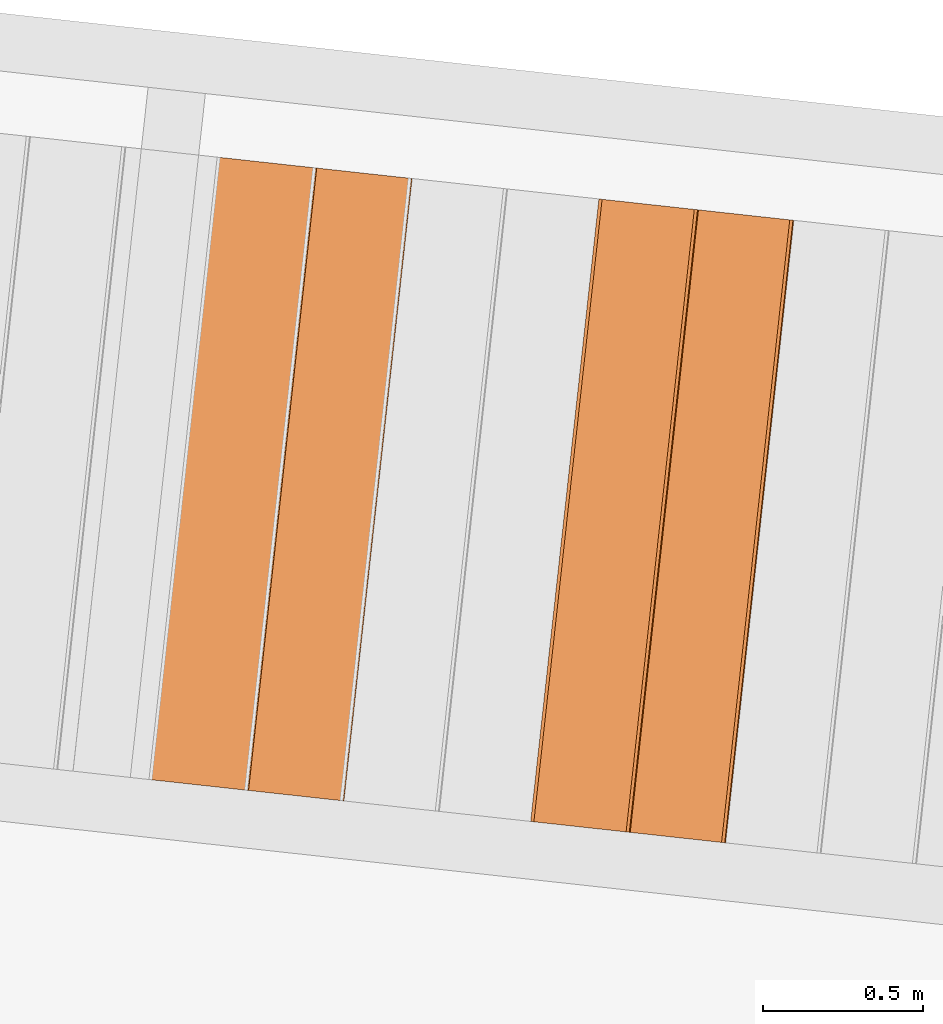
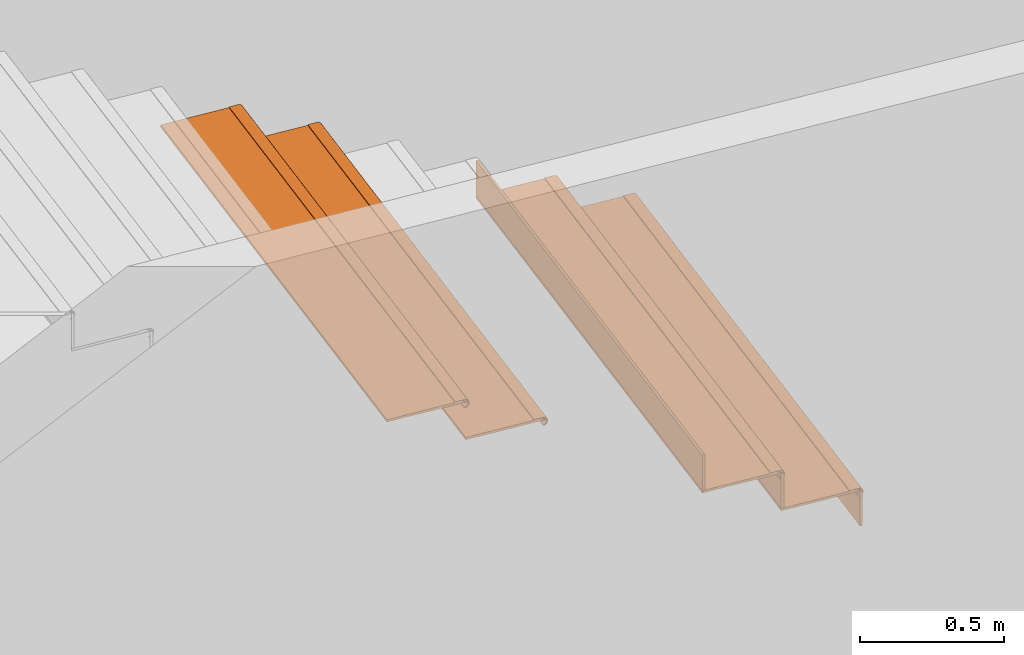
# One storey, part 76 of 79: 7 proxies, 1 element without a shape of its own.
"""IFC2X3 building model written with IfcOpenShell, lengths in metres."""

from ifc_helpers import new_model, entity, si_unit, converted_unit, derived_unit, money_unit, direction, frame, origin_with_axes, place, context, subcontext, project, spatial, faceted_brep, material, type_object, element, aggregate, save


model = new_model("IFC2X3")

# Units and contexts
model_context = context("Model", 3, precision=1e-05, world=origin_with_axes(), true_north=direction((0.0, 1.0)))
body_context = subcontext(model_context, "Body", "Model", "MODEL_VIEW")
ifc_project = project(units=[si_unit("LENGTHUNIT", "METRE"), si_unit("AREAUNIT", "SQUARE_METRE"), si_unit("VOLUMEUNIT", "CUBIC_METRE"), converted_unit("PLANEANGLEUNIT", "DEGREE", entity("IfcPlaneAngleMeasure", 0.0174532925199), si_unit("PLANEANGLEUNIT", "RADIAN"), dimensions=[0, 0, 0, 0, 0, 0, 0]), money_unit("CHF"), converted_unit("TIMEUNIT", "Year", entity("IfcTimeMeasure", 31556926.0), si_unit("TIMEUNIT", "SECOND"), dimensions=[0, 0, 1, 0, 0, 0, 0]), si_unit("MASSUNIT", "GRAM", prefix="KILO"), si_unit("THERMODYNAMICTEMPERATUREUNIT", "DEGREE_CELSIUS"), si_unit("LUMINOUSINTENSITYUNIT", "LUMEN"), si_unit("ENERGYUNIT", "JOULE", prefix="MEGA"), derived_unit("THERMALCONDUCTANCEUNIT", [(si_unit("POWERUNIT", "WATT"), 1), (si_unit("LENGTHUNIT", "METRE"), -1), (si_unit("THERMODYNAMICTEMPERATUREUNIT", "KELVIN"), -1)]), derived_unit("SPECIFICHEATCAPACITYUNIT", [(si_unit("ENERGYUNIT", "JOULE"), 1), (si_unit("MASSUNIT", "GRAM", prefix="KILO"), -1), (si_unit("THERMODYNAMICTEMPERATUREUNIT", "KELVIN"), -1)]), derived_unit("MASSDENSITYUNIT", [(si_unit("MASSUNIT", "GRAM", prefix="KILO"), 1), (si_unit("VOLUMEUNIT", "CUBIC_METRE"), -1)])], contexts=[model_context])

# Site, building, storey
site_placement = place(None, frame((0.0, 0.0, 0.0), z_axis=(0.0, 0.0, 1.0), x_axis=(-0.177771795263, -0.984071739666, 0.0)))
site = spatial("IfcSite", under=ifc_project, at=site_placement, Name="Site", CompositionType="ELEMENT")
building_placement = place(site_placement, origin_with_axes())
building = spatial("IfcBuilding", under=site, at=building_placement, Name="Bâtiment", CompositionType="ELEMENT")
storey_placement = place(building_placement, origin_with_axes())
storey = spatial("IfcBuildingStorey", under=building, at=storey_placement, Name="RDC", CompositionType="ELEMENT", Elevation=0.0)

# Proxies
building_element_proxy_type_1 = type_object("IfcBuildingElementProxyType", Name="Type d'escalier", PredefinedType="NOTDEFINED")
proxy_1_placement = place(storey_placement, origin_with_axes())
proxy_1 = element("IfcBuildingElementProxy", 1, at=proxy_1_placement, inside=storey, type_object=building_element_proxy_type_1, Name="ESC-001")
ifc_material = material(Name="Bois - Massif 01")
building_element_proxy_type_2 = type_object("IfcBuildingElementProxyType", Name="IfcBuildingElementProxy", PredefinedType="NOTDEFINED")
proxy_2_placement = place(proxy_1_placement, frame((98.7864712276, -152.794755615, 1.11), z_axis=(0.0, 0.0, 1.0), x_axis=(0.997579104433, 0.0695408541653, 0.0)))
proxy_2 = element("IfcBuildingElementProxy", 2, at=proxy_2_placement, type_object=building_element_proxy_type_2, material=ifc_material, Name="C-MARCHE-007", context=body_context, shape_type="Brep", body=[
    faceted_brep([(1.0011653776, 0.0, 0.0), (-0.955838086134, 0.0, 0.0), (-0.955838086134, -0.00999999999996, 0.0), (1.00116260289, -0.00999999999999, 0.0), (1.0011653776, 0.0, -0.15), (-0.955838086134, 0.0, -0.15), (-0.955838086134, -0.00999999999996, -0.15), (1.00116260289, -0.00999999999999, -0.15)], [[[0, 1, 2, 3]], [[4, 5, 1, 0]], [[1, 5, 6, 2]], [[3, 2, 6, 7]], [[0, 3, 7, 4]], [[7, 6, 5, 4]]]),
])
proxy_3_placement = place(proxy_1_placement, frame((98.8073334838, -153.094029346, 1.27), z_axis=(0.0, 0.0, 1.0), x_axis=(0.997579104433, 0.0695408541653, 0.0)))
proxy_3 = element("IfcBuildingElementProxy", 3, at=proxy_3_placement, type_object=building_element_proxy_type_2, material=ifc_material, Name="C-MARCHE-008", context=body_context, shape_type="Brep", body=[
    faceted_brep([(1.00108213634, 0.0, 0.0), (-0.955838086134, 0.0, 0.0), (-0.955838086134, -0.01, 0.0), (1.00107936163, -0.01, 0.0), (1.00108213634, 0.0, -0.15), (-0.955838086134, 0.0, -0.15), (-0.955838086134, -0.01, -0.15), (1.00107936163, -0.01, -0.15)], [[[0, 1, 2, 3]], [[4, 5, 1, 0]], [[1, 5, 6, 2]], [[3, 2, 6, 7]], [[0, 3, 7, 4]], [[7, 6, 5, 4]]]),
])
proxy_4_placement = place(proxy_1_placement, frame((98.8281957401, -153.393303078, 1.43), z_axis=(0.0, 0.0, 1.0), x_axis=(0.997579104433, 0.0695408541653, 0.0)))
proxy_4 = element("IfcBuildingElementProxy", 4, at=proxy_4_placement, type_object=building_element_proxy_type_2, material=ifc_material, Name="C-MARCHE-009", context=body_context, shape_type="Brep", body=[
    faceted_brep([(1.00099889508, 0.0, 0.0), (-0.955838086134, 0.0, 0.0), (-0.955838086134, -0.00999999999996, 0.0), (1.00099612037, -0.00999999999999, 0.0), (1.00099889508, 0.0, -0.15), (-0.955838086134, 0.0, -0.15), (-0.955838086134, -0.00999999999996, -0.15), (1.00099612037, -0.00999999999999, -0.15)], [[[0, 1, 2, 3]], [[4, 5, 1, 0]], [[1, 5, 6, 2]], [[3, 2, 6, 7]], [[0, 3, 7, 4]], [[7, 6, 5, 4]]]),
])
proxy_5_placement = place(proxy_1_placement, frame((98.7864712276, -152.794755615, 1.12), z_axis=(0.0, 0.0, 1.0), x_axis=(0.997579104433, 0.0695408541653, 0.0)))
proxy_5 = element("IfcBuildingElementProxy", 5, at=proxy_5_placement, type_object=building_element_proxy_type_2, material=ifc_material, Name="MARCHE-007", context=body_context, shape_type="Brep", body=[
    faceted_brep([(1.00116195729, -0.012326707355, -0.00589109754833), (1.00116121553, -0.015, -0.00401923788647), (1.00115990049, -0.0197393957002, -0.00180922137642), (1.00115849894, -0.02479055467, -0.00045576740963), (1.00115705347, -0.03, 0.0), (1.00107936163, -0.310000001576, 0.0), (1.00107936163, -0.310000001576, -0.01), (1.0011653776, 0.0, -0.01), (-0.955838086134, -0.012326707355, -0.00589109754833), (-0.955838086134, -0.015, -0.00401923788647), (-0.955838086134, -0.0197393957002, -0.00180922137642), (-0.955838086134, -0.02479055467, -0.00045576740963), (-0.955838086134, -0.03, 0.0), (-0.955838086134, -0.310000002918, 0.0), (-0.955838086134, -0.310000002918, -0.01), (-0.955838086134, 0.0, -0.01)], [[[0, 1, 2, 3, 4, 5, 6, 7]], [[0, 8, 9, 1]], [[1, 9, 10, 2]], [[2, 10, 11, 3]], [[3, 11, 12, 4]], [[5, 4, 12, 13]], [[13, 14, 6, 5]], [[7, 6, 14, 15]], [[7, 15, 8, 0]], [[12, 11, 10, 9, 8, 15, 14, 13]]]),
    faceted_brep([(-0.955838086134, -0.05, 0.0), (1.0011653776, -0.05, 0.0), (1.0011653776, -0.05, 0.003), (-0.955838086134, -0.05, 0.003), (-0.955838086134, -0.015, 0.0), (1.0011653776, -0.015, 0.0), (1.0011653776, -0.012395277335, -0.00022788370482), (1.0011653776, -0.00986969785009, -0.00090461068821), (1.0011653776, -0.00749999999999, -0.00200961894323), (1.0011653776, -0.00535818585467, -0.00350933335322), (1.0011653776, -0.00350933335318, -0.0053581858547), (1.0011653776, -0.00200961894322, -0.0075), (1.0011653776, -0.000904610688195, -0.00986969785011), (1.0011653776, -0.000227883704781, -0.012395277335), (1.0011653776, 0.0, -0.015), (1.0011653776, -0.000227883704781, -0.017604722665), (1.0011653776, -0.000904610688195, -0.0201303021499), (1.0011653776, -0.00200961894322, -0.0225), (1.0011653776, -0.00350933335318, -0.0246418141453), (1.0011653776, -0.00535818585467, -0.0264906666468), (1.0011653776, -0.00749999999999, -0.0279903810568), (1.0011653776, -0.00986969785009, -0.0290953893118), (1.0011653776, -0.012395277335, -0.0297721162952), (1.0011653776, -0.015, -0.03), (1.0011653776, -0.015, -0.033), (1.0011653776, -0.011874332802, -0.0327265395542), (1.0011653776, -0.00884363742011, -0.0319144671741), (1.0011653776, -0.00599999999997, -0.0305884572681), (1.0011653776, -0.00342982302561, -0.0287887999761), (1.0011653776, -0.00121120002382, -0.0265701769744), (1.0011653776, 0.000588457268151, -0.024), (1.0011653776, 0.00191446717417, -0.0211563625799), (1.0011653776, 0.00272653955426, -0.018125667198), (1.0011653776, 0.00300000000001, -0.015), (1.0011653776, 0.00272653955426, -0.011874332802), (1.0011653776, 0.00191446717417, -0.00884363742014), (1.0011653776, 0.000588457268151, -0.006), (1.0011653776, -0.00121120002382, -0.00342982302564), (1.0011653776, -0.00342982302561, -0.00121120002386), (1.0011653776, -0.00599999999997, 0.00058845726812), (1.0011653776, -0.00884363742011, 0.00191446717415), (1.0011653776, -0.011874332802, 0.00272653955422), (1.0011653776, -0.015, 0.003), (-0.955838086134, -0.015, 0.003), (-0.955838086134, -0.011874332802, 0.00272653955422), (-0.955838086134, -0.00884363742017, 0.00191446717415), (-0.955838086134, -0.006, 0.00058845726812), (-0.955838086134, -0.00342982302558, -0.00121120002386), (-0.955838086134, -0.00121120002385, -0.00342982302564), (-0.955838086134, 0.000588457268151, -0.006), (-0.955838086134, 0.00191446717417, -0.00884363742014), (-0.955838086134, 0.00272653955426, -0.011874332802), (-0.955838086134, 0.00300000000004, -0.015), (-0.955838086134, 0.00272653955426, -0.018125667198), (-0.955838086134, 0.00191446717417, -0.0211563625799), (-0.955838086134, 0.000588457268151, -0.024), (-0.955838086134, -0.00121120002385, -0.0265701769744), (-0.955838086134, -0.00342982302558, -0.0287887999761), (-0.955838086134, -0.006, -0.0305884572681), (-0.955838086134, -0.00884363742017, -0.0319144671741), (-0.955838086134, -0.011874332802, -0.0327265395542), (-0.955838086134, -0.015, -0.033), (-0.955838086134, -0.015, -0.03), (-0.955838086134, -0.012395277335, -0.0297721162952), (-0.955838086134, -0.00986969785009, -0.0290953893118), (-0.955838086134, -0.00749999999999, -0.0279903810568), (-0.955838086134, -0.00535818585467, -0.0264906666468), (-0.955838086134, -0.00350933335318, -0.0246418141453), (-0.955838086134, -0.00200961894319, -0.0225), (-0.955838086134, -0.000904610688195, -0.0201303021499), (-0.955838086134, -0.00022788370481, -0.017604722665), (-0.955838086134, 0.0, -0.015), (-0.955838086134, -0.00022788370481, -0.012395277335), (-0.955838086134, -0.000904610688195, -0.00986969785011), (-0.955838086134, -0.00200961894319, -0.0075), (-0.955838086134, -0.00350933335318, -0.0053581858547), (-0.955838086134, -0.00535818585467, -0.00350933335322), (-0.955838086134, -0.00749999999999, -0.00200961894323), (-0.955838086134, -0.00986969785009, -0.00090461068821), (-0.955838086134, -0.012395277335, -0.00022788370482)], [[[0, 1, 2, 3]], [[4, 5, 1, 0]], [[1, 5, 6, 7, 8, 9, 10, 11, 12, 13, 14, 15, 16, 17, 18, 19, 20, 21, 22, 23, 24, 25, 26, 27, 28, 29, 30, 31, 32, 33, 34, 35, 36, 37, 38, 39, 40, 41, 42, 2]], [[3, 2, 42, 43]], [[0, 3, 43, 44, 45, 46, 47, 48, 49, 50, 51, 52, 53, 54, 55, 56, 57, 58, 59, 60, 61, 62, 63, 64, 65, 66, 67, 68, 69, 70, 71, 72, 73, 74, 75, 76, 77, 78, 79, 4]], [[79, 6, 5, 4]], [[78, 7, 6, 79]], [[77, 8, 7, 78]], [[76, 9, 8, 77]], [[75, 10, 9, 76]], [[74, 11, 10, 75]], [[73, 12, 11, 74]], [[72, 13, 12, 73]], [[71, 14, 13, 72]], [[70, 15, 14, 71]], [[69, 16, 15, 70]], [[68, 17, 16, 69]], [[67, 18, 17, 68]], [[66, 19, 18, 67]], [[65, 20, 19, 66]], [[64, 21, 20, 65]], [[63, 22, 21, 64]], [[62, 23, 22, 63]], [[61, 24, 23, 62]], [[60, 25, 24, 61]], [[59, 26, 25, 60]], [[58, 27, 26, 59]], [[57, 28, 27, 58]], [[56, 29, 28, 57]], [[55, 30, 29, 56]], [[54, 31, 30, 55]], [[53, 32, 31, 54]], [[52, 33, 32, 53]], [[51, 34, 33, 52]], [[50, 35, 34, 51]], [[49, 36, 35, 50]], [[48, 37, 36, 49]], [[47, 38, 37, 48]], [[46, 39, 38, 47]], [[45, 40, 39, 46]], [[44, 41, 40, 45]], [[43, 42, 41, 44]]]),
])
proxy_6_placement = place(proxy_1_placement, frame((98.8073334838, -153.094029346, 1.28), z_axis=(0.0, 0.0, 1.0), x_axis=(0.997579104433, 0.0695408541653, 0.0)))
proxy_6 = element("IfcBuildingElementProxy", 6, at=proxy_6_placement, type_object=building_element_proxy_type_2, material=ifc_material, Name="MARCHE-008", context=body_context, shape_type="Brep", body=[
    faceted_brep([(1.00107871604, -0.012326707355, -0.00589109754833), (1.00107797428, -0.015, -0.00401923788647), (1.00107665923, -0.0197393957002, -0.00180922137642), (1.00107525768, -0.02479055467, -0.00045576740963), (1.00107381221, -0.03, 0.0), (1.00099612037, -0.309999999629, 0.0), (1.00099612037, -0.309999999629, -0.01), (1.00108213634, 0.0, -0.01), (-0.955838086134, -0.012326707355, -0.00589109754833), (-0.955838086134, -0.015, -0.00401923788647), (-0.955838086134, -0.0197393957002, -0.00180922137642), (-0.955838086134, -0.02479055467, -0.00045576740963), (-0.955838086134, -0.03, 0.0), (-0.955838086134, -0.310000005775, 0.0), (-0.955838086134, -0.310000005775, -0.01), (-0.955838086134, 0.0, -0.01)], [[[0, 1, 2, 3, 4, 5, 6, 7]], [[0, 8, 9, 1]], [[1, 9, 10, 2]], [[2, 10, 11, 3]], [[3, 11, 12, 4]], [[5, 4, 12, 13]], [[13, 14, 6, 5]], [[7, 6, 14, 15]], [[7, 15, 8, 0]], [[12, 11, 10, 9, 8, 15, 14, 13]]]),
    faceted_brep([(-0.955838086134, -0.05, 0.0), (1.00108213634, -0.05, 0.0), (1.00108213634, -0.05, 0.003), (-0.955838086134, -0.05, 0.003), (-0.955838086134, -0.015, 0.0), (1.00108213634, -0.015, 0.0), (1.00108213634, -0.012395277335, -0.00022788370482), (1.00108213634, -0.00986969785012, -0.00090461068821), (1.00108213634, -0.00749999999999, -0.00200961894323), (1.00108213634, -0.0053581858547, -0.00350933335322), (1.00108213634, -0.00350933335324, -0.0053581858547), (1.00108213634, -0.00200961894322, -0.0075), (1.00108213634, -0.000904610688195, -0.00986969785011), (1.00108213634, -0.000227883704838, -0.012395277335), (1.00108213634, 0.0, -0.015), (1.00108213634, -0.000227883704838, -0.017604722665), (1.00108213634, -0.000904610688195, -0.0201303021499), (1.00108213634, -0.00200961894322, -0.0225), (1.00108213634, -0.00350933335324, -0.0246418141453), (1.00108213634, -0.0053581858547, -0.0264906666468), (1.00108213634, -0.00749999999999, -0.0279903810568), (1.00108213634, -0.00986969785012, -0.0290953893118), (1.00108213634, -0.012395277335, -0.0297721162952), (1.00108213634, -0.015, -0.03), (1.00108213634, -0.015, -0.033), (1.00108213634, -0.011874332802, -0.0327265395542), (1.00108213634, -0.00884363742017, -0.0319144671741), (1.00108213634, -0.00599999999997, -0.0305884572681), (1.00108213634, -0.00342982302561, -0.0287887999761), (1.00108213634, -0.00121120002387, -0.0265701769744), (1.00108213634, 0.000588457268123, -0.024), (1.00108213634, 0.00191446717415, -0.0211563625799), (1.00108213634, 0.00272653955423, -0.018125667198), (1.00108213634, 0.00299999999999, -0.015), (1.00108213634, 0.00272653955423, -0.011874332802), (1.00108213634, 0.00191446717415, -0.00884363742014), (1.00108213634, 0.000588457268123, -0.006), (1.00108213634, -0.00121120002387, -0.00342982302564), (1.00108213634, -0.00342982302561, -0.00121120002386), (1.00108213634, -0.00599999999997, 0.00058845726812), (1.00108213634, -0.00884363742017, 0.00191446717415), (1.00108213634, -0.011874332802, 0.00272653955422), (1.00108213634, -0.015, 0.003), (-0.955838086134, -0.015, 0.003), (-0.955838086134, -0.011874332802, 0.00272653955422), (-0.955838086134, -0.00884363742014, 0.00191446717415), (-0.955838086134, -0.00600000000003, 0.00058845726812), (-0.955838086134, -0.00342982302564, -0.00121120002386), (-0.955838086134, -0.00121120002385, -0.00342982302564), (-0.955838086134, 0.000588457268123, -0.006), (-0.955838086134, 0.00191446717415, -0.00884363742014), (-0.955838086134, 0.00272653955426, -0.011874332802), (-0.955838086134, 0.00300000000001, -0.015), (-0.955838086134, 0.00272653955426, -0.018125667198), (-0.955838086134, 0.00191446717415, -0.0211563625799), (-0.955838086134, 0.000588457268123, -0.024), (-0.955838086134, -0.00121120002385, -0.0265701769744), (-0.955838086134, -0.00342982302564, -0.0287887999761), (-0.955838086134, -0.00600000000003, -0.0305884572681), (-0.955838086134, -0.00884363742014, -0.0319144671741), (-0.955838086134, -0.011874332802, -0.0327265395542), (-0.955838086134, -0.015, -0.033), (-0.955838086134, -0.015, -0.03), (-0.955838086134, -0.012395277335, -0.0297721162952), (-0.955838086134, -0.00986969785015, -0.0290953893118), (-0.955838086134, -0.00749999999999, -0.0279903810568), (-0.955838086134, -0.00535818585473, -0.0264906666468), (-0.955838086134, -0.00350933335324, -0.0246418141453), (-0.955838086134, -0.00200961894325, -0.0225), (-0.955838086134, -0.000904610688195, -0.0201303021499), (-0.955838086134, -0.00022788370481, -0.017604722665), (-0.955838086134, 0.0, -0.015), (-0.955838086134, -0.00022788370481, -0.012395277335), (-0.955838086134, -0.000904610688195, -0.00986969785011), (-0.955838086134, -0.00200961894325, -0.0075), (-0.955838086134, -0.00350933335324, -0.0053581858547), (-0.955838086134, -0.00535818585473, -0.00350933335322), (-0.955838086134, -0.00749999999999, -0.00200961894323), (-0.955838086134, -0.00986969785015, -0.00090461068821), (-0.955838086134, -0.012395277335, -0.00022788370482)], [[[0, 1, 2, 3]], [[4, 5, 1, 0]], [[1, 5, 6, 7, 8, 9, 10, 11, 12, 13, 14, 15, 16, 17, 18, 19, 20, 21, 22, 23, 24, 25, 26, 27, 28, 29, 30, 31, 32, 33, 34, 35, 36, 37, 38, 39, 40, 41, 42, 2]], [[3, 2, 42, 43]], [[0, 3, 43, 44, 45, 46, 47, 48, 49, 50, 51, 52, 53, 54, 55, 56, 57, 58, 59, 60, 61, 62, 63, 64, 65, 66, 67, 68, 69, 70, 71, 72, 73, 74, 75, 76, 77, 78, 79, 4]], [[79, 6, 5, 4]], [[78, 7, 6, 79]], [[77, 8, 7, 78]], [[76, 9, 8, 77]], [[75, 10, 9, 76]], [[74, 11, 10, 75]], [[73, 12, 11, 74]], [[72, 13, 12, 73]], [[71, 14, 13, 72]], [[70, 15, 14, 71]], [[69, 16, 15, 70]], [[68, 17, 16, 69]], [[67, 18, 17, 68]], [[66, 19, 18, 67]], [[65, 20, 19, 66]], [[64, 21, 20, 65]], [[63, 22, 21, 64]], [[62, 23, 22, 63]], [[61, 24, 23, 62]], [[60, 25, 24, 61]], [[59, 26, 25, 60]], [[58, 27, 26, 59]], [[57, 28, 27, 58]], [[56, 29, 28, 57]], [[55, 30, 29, 56]], [[54, 31, 30, 55]], [[53, 32, 31, 54]], [[52, 33, 32, 53]], [[51, 34, 33, 52]], [[50, 35, 34, 51]], [[49, 36, 35, 50]], [[48, 37, 36, 49]], [[47, 38, 37, 48]], [[46, 39, 38, 47]], [[45, 40, 39, 46]], [[44, 41, 40, 45]], [[43, 42, 41, 44]]]),
])
proxy_7_placement = place(proxy_1_placement, frame((98.8699202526, -153.99185054, 1.76), z_axis=(0.0, 0.0, 1.0), x_axis=(0.997579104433, 0.0695408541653, 0.0)))
proxy_7 = element("IfcBuildingElementProxy", 7, at=proxy_7_placement, type_object=building_element_proxy_type_2, material=ifc_material, Name="MARCHE-011", context=body_context, shape_type="Brep", body=[
    faceted_brep([(1.00082899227, -0.012326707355, -0.00589109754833), (1.00082825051, -0.015, -0.00401923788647), (1.00082693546, -0.0197393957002, -0.00180922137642), (1.00082553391, -0.02479055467, -0.00045576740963), (1.00082408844, -0.03, 0.0), (1.0007463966, -0.309999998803, 0.0), (1.0007463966, -0.309999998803, -0.01), (1.00083241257, 0.0, -0.01), (-0.955838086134, -0.012326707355, -0.00589109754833), (-0.955838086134, -0.015, -0.00401923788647), (-0.955838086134, -0.0197393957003, -0.00180922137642), (-0.955838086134, -0.02479055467, -0.00045576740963), (-0.955838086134, -0.03, 0.0), (-0.955838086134, -0.309999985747, 0.0), (-0.955838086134, -0.309999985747, -0.01), (-0.955838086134, 0.0, -0.01)], [[[0, 1, 2, 3, 4, 5, 6, 7]], [[0, 8, 9, 1]], [[1, 9, 10, 2]], [[2, 10, 11, 3]], [[3, 11, 12, 4]], [[5, 4, 12, 13]], [[13, 14, 6, 5]], [[7, 6, 14, 15]], [[7, 15, 8, 0]], [[12, 11, 10, 9, 8, 15, 14, 13]]]),
    faceted_brep([(-0.955838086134, -0.05, 0.0), (1.00083241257, -0.05, 0.0), (1.00083241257, -0.05, 0.003), (-0.955838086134, -0.05, 0.003), (-0.955838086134, -0.015, 0.0), (1.00083241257, -0.015, 0.0), (1.00083241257, -0.012395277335, -0.00022788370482), (1.00083241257, -0.00986969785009, -0.00090461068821), (1.00083241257, -0.00749999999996, -0.00200961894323), (1.00083241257, -0.0053581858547, -0.00350933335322), (1.00083241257, -0.00350933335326, -0.0053581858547), (1.00083241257, -0.00200961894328, -0.0075), (1.00083241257, -0.000904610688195, -0.00986969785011), (1.00083241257, -0.000227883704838, -0.012395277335), (1.00083241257, 0.0, -0.015), (1.00083241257, -0.000227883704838, -0.017604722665), (1.00083241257, -0.000904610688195, -0.0201303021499), (1.00083241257, -0.00200961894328, -0.0225), (1.00083241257, -0.00350933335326, -0.0246418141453), (1.00083241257, -0.0053581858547, -0.0264906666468), (1.00083241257, -0.00749999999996, -0.0279903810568), (1.00083241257, -0.00986969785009, -0.0290953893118), (1.00083241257, -0.012395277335, -0.0297721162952), (1.00083241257, -0.015, -0.03), (1.00083241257, -0.015, -0.033), (1.00083241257, -0.011874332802, -0.0327265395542), (1.00083241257, -0.00884363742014, -0.0319144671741), (1.00083241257, -0.006, -0.0305884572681), (1.00083241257, -0.00342982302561, -0.0287887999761), (1.00083241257, -0.00121120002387, -0.0265701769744), (1.00083241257, 0.000588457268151, -0.024), (1.00083241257, 0.00191446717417, -0.0211563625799), (1.00083241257, 0.00272653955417, -0.018125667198), (1.00083241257, 0.00300000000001, -0.015), (1.00083241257, 0.00272653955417, -0.011874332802), (1.00083241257, 0.00191446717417, -0.00884363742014), (1.00083241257, 0.000588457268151, -0.006), (1.00083241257, -0.00121120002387, -0.00342982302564), (1.00083241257, -0.00342982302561, -0.00121120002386), (1.00083241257, -0.006, 0.00058845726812), (1.00083241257, -0.00884363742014, 0.00191446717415), (1.00083241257, -0.011874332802, 0.00272653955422), (1.00083241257, -0.015, 0.003), (-0.955838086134, -0.015, 0.003), (-0.955838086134, -0.011874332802, 0.00272653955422), (-0.955838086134, -0.00884363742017, 0.00191446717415), (-0.955838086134, -0.00600000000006, 0.00058845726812), (-0.955838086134, -0.00342982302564, -0.00121120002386), (-0.955838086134, -0.00121120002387, -0.00342982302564), (-0.955838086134, 0.000588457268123, -0.006), (-0.955838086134, 0.00191446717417, -0.00884363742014), (-0.955838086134, 0.00272653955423, -0.011874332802), (-0.955838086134, 0.00299999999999, -0.015), (-0.955838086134, 0.00272653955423, -0.018125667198), (-0.955838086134, 0.00191446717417, -0.0211563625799), (-0.955838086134, 0.000588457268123, -0.024), (-0.955838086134, -0.00121120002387, -0.0265701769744), (-0.955838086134, -0.00342982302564, -0.0287887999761), (-0.955838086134, -0.00600000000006, -0.0305884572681), (-0.955838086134, -0.00884363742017, -0.0319144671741), (-0.955838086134, -0.011874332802, -0.0327265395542), (-0.955838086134, -0.015, -0.033), (-0.955838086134, -0.015, -0.03), (-0.955838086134, -0.012395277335, -0.0297721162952), (-0.955838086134, -0.00986969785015, -0.0290953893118), (-0.955838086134, -0.00750000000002, -0.0279903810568), (-0.955838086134, -0.00535818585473, -0.0264906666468), (-0.955838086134, -0.00350933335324, -0.0246418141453), (-0.955838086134, -0.00200961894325, -0.0225), (-0.955838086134, -0.000904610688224, -0.0201303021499), (-0.955838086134, -0.000227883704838, -0.017604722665), (-0.955838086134, 0.0, -0.015), (-0.955838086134, -0.000227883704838, -0.012395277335), (-0.955838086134, -0.000904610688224, -0.00986969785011), (-0.955838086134, -0.00200961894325, -0.0075), (-0.955838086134, -0.00350933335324, -0.0053581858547), (-0.955838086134, -0.00535818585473, -0.00350933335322), (-0.955838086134, -0.00750000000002, -0.00200961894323), (-0.955838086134, -0.00986969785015, -0.00090461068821), (-0.955838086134, -0.012395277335, -0.00022788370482)], [[[0, 1, 2, 3]], [[4, 5, 1, 0]], [[1, 5, 6, 7, 8, 9, 10, 11, 12, 13, 14, 15, 16, 17, 18, 19, 20, 21, 22, 23, 24, 25, 26, 27, 28, 29, 30, 31, 32, 33, 34, 35, 36, 37, 38, 39, 40, 41, 42, 2]], [[3, 2, 42, 43]], [[0, 3, 43, 44, 45, 46, 47, 48, 49, 50, 51, 52, 53, 54, 55, 56, 57, 58, 59, 60, 61, 62, 63, 64, 65, 66, 67, 68, 69, 70, 71, 72, 73, 74, 75, 76, 77, 78, 79, 4]], [[79, 6, 5, 4]], [[78, 7, 6, 79]], [[77, 8, 7, 78]], [[76, 9, 8, 77]], [[75, 10, 9, 76]], [[74, 11, 10, 75]], [[73, 12, 11, 74]], [[72, 13, 12, 73]], [[71, 14, 13, 72]], [[70, 15, 14, 71]], [[69, 16, 15, 70]], [[68, 17, 16, 69]], [[67, 18, 17, 68]], [[66, 19, 18, 67]], [[65, 20, 19, 66]], [[64, 21, 20, 65]], [[63, 22, 21, 64]], [[62, 23, 22, 63]], [[61, 24, 23, 62]], [[60, 25, 24, 61]], [[59, 26, 25, 60]], [[58, 27, 26, 59]], [[57, 28, 27, 58]], [[56, 29, 28, 57]], [[55, 30, 29, 56]], [[54, 31, 30, 55]], [[53, 32, 31, 54]], [[52, 33, 32, 53]], [[51, 34, 33, 52]], [[50, 35, 34, 51]], [[49, 36, 35, 50]], [[48, 37, 36, 49]], [[47, 38, 37, 48]], [[46, 39, 38, 47]], [[45, 40, 39, 46]], [[44, 41, 40, 45]], [[43, 42, 41, 44]]]),
])
proxy_8_placement = place(proxy_1_placement, frame((98.8907825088, -154.291124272, 1.92), z_axis=(0.0, 0.0, 1.0), x_axis=(0.997579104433, 0.0695408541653, 0.0)))
proxy_8 = element("IfcBuildingElementProxy", 8, at=proxy_8_placement, type_object=building_element_proxy_type_2, material=ifc_material, Name="MARCHE-012", context=body_context, shape_type="Brep", body=[
    faceted_brep([(1.00074575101, -0.012326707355, -0.00589109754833), (1.00074500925, -0.015, -0.00401923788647), (1.0007436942, -0.0197393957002, -0.00180922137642), (1.00074229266, -0.02479055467, -0.00045576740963), (1.00074084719, -0.03, 0.0), (1.00066315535, -0.310000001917, 0.0), (1.00066315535, -0.310000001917, -0.01), (1.00074917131, 0.0, -0.01), (-0.955838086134, -0.012326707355, -0.00589109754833), (-0.955838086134, -0.015, -0.00401923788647), (-0.955838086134, -0.0197393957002, -0.00180922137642), (-0.955838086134, -0.02479055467, -0.00045576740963), (-0.955838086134, -0.03, 0.0), (-0.955838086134, -0.309999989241, 0.0), (-0.955838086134, -0.309999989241, -0.01), (-0.955838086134, 0.0, -0.01)], [[[0, 1, 2, 3, 4, 5, 6, 7]], [[0, 8, 9, 1]], [[1, 9, 10, 2]], [[2, 10, 11, 3]], [[3, 11, 12, 4]], [[5, 4, 12, 13]], [[13, 14, 6, 5]], [[7, 6, 14, 15]], [[7, 15, 8, 0]], [[12, 11, 10, 9, 8, 15, 14, 13]]]),
    faceted_brep([(-0.955838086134, -0.05, 0.0), (1.00074917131, -0.05, 0.0), (1.00074917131, -0.05, 0.003), (-0.955838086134, -0.05, 0.003), (-0.955838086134, -0.015, 0.0), (1.00074917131, -0.015, 0.0), (1.00074917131, -0.012395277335, -0.00022788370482), (1.00074917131, -0.00986969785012, -0.00090461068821), (1.00074917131, -0.00749999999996, -0.00200961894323), (1.00074917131, -0.00535818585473, -0.00350933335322), (1.00074917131, -0.00350933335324, -0.0053581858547), (1.00074917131, -0.00200961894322, -0.0075), (1.00074917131, -0.000904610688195, -0.00986969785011), (1.00074917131, -0.000227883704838, -0.012395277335), (1.00074917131, 0.0, -0.015), (1.00074917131, -0.000227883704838, -0.017604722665), (1.00074917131, -0.000904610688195, -0.0201303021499), (1.00074917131, -0.00200961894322, -0.0225), (1.00074917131, -0.00350933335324, -0.0246418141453), (1.00074917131, -0.00535818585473, -0.0264906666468), (1.00074917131, -0.00749999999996, -0.0279903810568), (1.00074917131, -0.00986969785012, -0.0290953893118), (1.00074917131, -0.012395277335, -0.0297721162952), (1.00074917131, -0.015, -0.03), (1.00074917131, -0.015, -0.033), (1.00074917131, -0.011874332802, -0.0327265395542), (1.00074917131, -0.00884363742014, -0.0319144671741), (1.00074917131, -0.00600000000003, -0.0305884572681), (1.00074917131, -0.00342982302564, -0.0287887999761), (1.00074917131, -0.00121120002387, -0.0265701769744), (1.00074917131, 0.000588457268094, -0.024), (1.00074917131, 0.00191446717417, -0.0211563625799), (1.00074917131, 0.0027265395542, -0.018125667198), (1.00074917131, 0.00299999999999, -0.015), (1.00074917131, 0.0027265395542, -0.011874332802), (1.00074917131, 0.00191446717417, -0.00884363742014), (1.00074917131, 0.000588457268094, -0.006), (1.00074917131, -0.00121120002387, -0.00342982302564), (1.00074917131, -0.00342982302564, -0.00121120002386), (1.00074917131, -0.00600000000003, 0.00058845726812), (1.00074917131, -0.00884363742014, 0.00191446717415), (1.00074917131, -0.011874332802, 0.00272653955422), (1.00074917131, -0.015, 0.003), (-0.955838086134, -0.015, 0.003), (-0.955838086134, -0.011874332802, 0.00272653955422), (-0.955838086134, -0.00884363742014, 0.00191446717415), (-0.955838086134, -0.006, 0.00058845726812), (-0.955838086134, -0.00342982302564, -0.00121120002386), (-0.955838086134, -0.00121120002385, -0.00342982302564), (-0.955838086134, 0.000588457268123, -0.006), (-0.955838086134, 0.00191446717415, -0.00884363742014), (-0.955838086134, 0.00272653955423, -0.011874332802), (-0.955838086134, 0.00299999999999, -0.015), (-0.955838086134, 0.00272653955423, -0.018125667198), (-0.955838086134, 0.00191446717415, -0.0211563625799), (-0.955838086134, 0.000588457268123, -0.024), (-0.955838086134, -0.00121120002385, -0.0265701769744), (-0.955838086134, -0.00342982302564, -0.0287887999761), (-0.955838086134, -0.006, -0.0305884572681), (-0.955838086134, -0.00884363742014, -0.0319144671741), (-0.955838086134, -0.011874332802, -0.0327265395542), (-0.955838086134, -0.015, -0.033), (-0.955838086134, -0.015, -0.03), (-0.955838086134, -0.012395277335, -0.0297721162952), (-0.955838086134, -0.00986969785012, -0.0290953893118), (-0.955838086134, -0.00749999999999, -0.0279903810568), (-0.955838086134, -0.0053581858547, -0.0264906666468), (-0.955838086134, -0.00350933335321, -0.0246418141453), (-0.955838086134, -0.00200961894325, -0.0225), (-0.955838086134, -0.000904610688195, -0.0201303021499), (-0.955838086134, -0.00022788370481, -0.017604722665), (-0.955838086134, 0.0, -0.015), (-0.955838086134, -0.00022788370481, -0.012395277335), (-0.955838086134, -0.000904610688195, -0.00986969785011), (-0.955838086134, -0.00200961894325, -0.0075), (-0.955838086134, -0.00350933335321, -0.0053581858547), (-0.955838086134, -0.0053581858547, -0.00350933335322), (-0.955838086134, -0.00749999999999, -0.00200961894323), (-0.955838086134, -0.00986969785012, -0.00090461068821), (-0.955838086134, -0.012395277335, -0.00022788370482)], [[[0, 1, 2, 3]], [[4, 5, 1, 0]], [[1, 5, 6, 7, 8, 9, 10, 11, 12, 13, 14, 15, 16, 17, 18, 19, 20, 21, 22, 23, 24, 25, 26, 27, 28, 29, 30, 31, 32, 33, 34, 35, 36, 37, 38, 39, 40, 41, 42, 2]], [[3, 2, 42, 43]], [[0, 3, 43, 44, 45, 46, 47, 48, 49, 50, 51, 52, 53, 54, 55, 56, 57, 58, 59, 60, 61, 62, 63, 64, 65, 66, 67, 68, 69, 70, 71, 72, 73, 74, 75, 76, 77, 78, 79, 4]], [[79, 6, 5, 4]], [[78, 7, 6, 79]], [[77, 8, 7, 78]], [[76, 9, 8, 77]], [[75, 10, 9, 76]], [[74, 11, 10, 75]], [[73, 12, 11, 74]], [[72, 13, 12, 73]], [[71, 14, 13, 72]], [[70, 15, 14, 71]], [[69, 16, 15, 70]], [[68, 17, 16, 69]], [[67, 18, 17, 68]], [[66, 19, 18, 67]], [[65, 20, 19, 66]], [[64, 21, 20, 65]], [[63, 22, 21, 64]], [[62, 23, 22, 63]], [[61, 24, 23, 62]], [[60, 25, 24, 61]], [[59, 26, 25, 60]], [[58, 27, 26, 59]], [[57, 28, 27, 58]], [[56, 29, 28, 57]], [[55, 30, 29, 56]], [[54, 31, 30, 55]], [[53, 32, 31, 54]], [[52, 33, 32, 53]], [[51, 34, 33, 52]], [[50, 35, 34, 51]], [[49, 36, 35, 50]], [[48, 37, 36, 49]], [[47, 38, 37, 48]], [[46, 39, 38, 47]], [[45, 40, 39, 46]], [[44, 41, 40, 45]], [[43, 42, 41, 44]]]),
])
aggregate(proxy_1, [proxy_2, proxy_3, proxy_4, proxy_5, proxy_6, proxy_7, proxy_8])

save(model, "model.ifc")
